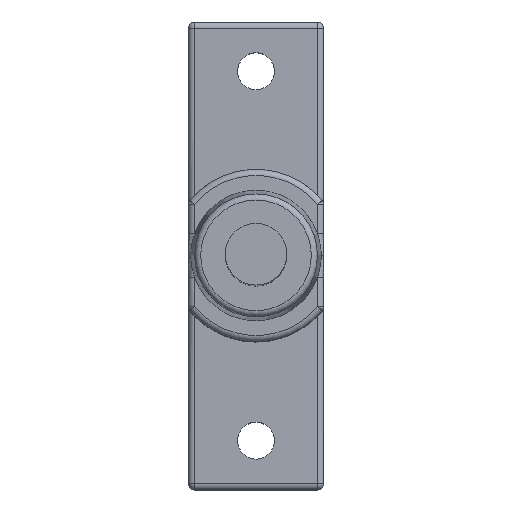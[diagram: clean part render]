
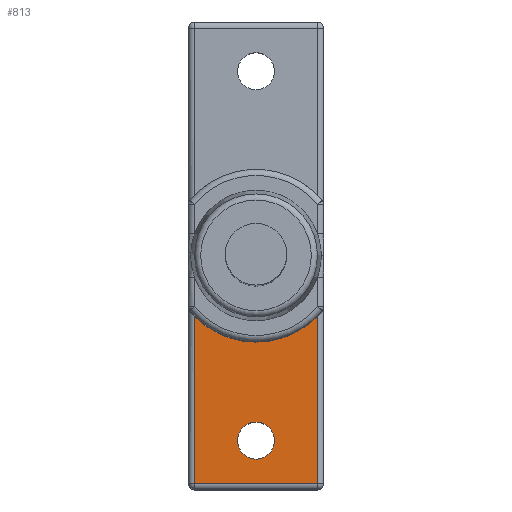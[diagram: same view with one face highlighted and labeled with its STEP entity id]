
A CAD part, top view. The second image highlights one B-rep face of the part: STEP entity #813.
In plain terms, the highlighted planar face has unit normal (0, 0, 1).
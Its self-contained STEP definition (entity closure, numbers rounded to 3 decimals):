
#255 = VERTEX_POINT('',#256);
#256 = CARTESIAN_POINT('',(5.,-4.899,5.7));
#283 = VERTEX_POINT('',#284);
#284 = CARTESIAN_POINT('',(5.,-18.5,5.7));
#291 = EDGE_CURVE('',#283,#255,#292,.T.);
#292 = LINE('',#293,#294);
#293 = CARTESIAN_POINT('',(5.,-19.,5.7));
#294 = VECTOR('',#295,1.);
#295 = DIRECTION('',(0.,1.,0.));
#723 = EDGE_CURVE('',#724,#255,#726,.T.);
#724 = VERTEX_POINT('',#725);
#725 = CARTESIAN_POINT('',(-5.,-4.899,5.7));
#726 = CIRCLE('',#727,7.);
#727 = AXIS2_PLACEMENT_3D('',#728,#729,#730);
#728 = CARTESIAN_POINT('',(0.,0.,5.7));
#729 = DIRECTION('',(0.,0.,1.));
#730 = DIRECTION('',(1.,0.,0.));
#813 = ADVANCED_FACE('',(#814,#832),#843,.T.);
#814 = FACE_BOUND('',#815,.T.);
#815 = EDGE_LOOP('',(#816,#817,#825,#831));
#816 = ORIENTED_EDGE('',*,*,#723,.F.);
#817 = ORIENTED_EDGE('',*,*,#818,.T.);
#818 = EDGE_CURVE('',#724,#819,#821,.T.);
#819 = VERTEX_POINT('',#820);
#820 = CARTESIAN_POINT('',(-5.,-18.5,5.7));
#821 = LINE('',#822,#823);
#822 = CARTESIAN_POINT('',(-5.,-4.33,5.7));
#823 = VECTOR('',#824,1.);
#824 = DIRECTION('',(0.,-1.,0.));
#825 = ORIENTED_EDGE('',*,*,#826,.T.);
#826 = EDGE_CURVE('',#819,#283,#827,.T.);
#827 = LINE('',#828,#829);
#828 = CARTESIAN_POINT('',(-5.5,-18.5,5.7));
#829 = VECTOR('',#830,1.);
#830 = DIRECTION('',(1.,0.,0.));
#831 = ORIENTED_EDGE('',*,*,#291,.T.);
#832 = FACE_BOUND('',#833,.T.);
#833 = EDGE_LOOP('',(#834));
#834 = ORIENTED_EDGE('',*,*,#835,.T.);
#835 = EDGE_CURVE('',#836,#836,#838,.T.);
#836 = VERTEX_POINT('',#837);
#837 = CARTESIAN_POINT('',(1.5,-15.,5.7));
#838 = CIRCLE('',#839,1.5);
#839 = AXIS2_PLACEMENT_3D('',#840,#841,#842);
#840 = CARTESIAN_POINT('',(0.,-15.,5.7));
#841 = DIRECTION('',(0.,0.,-1.));
#842 = DIRECTION('',(1.,0.,0.));
#843 = PLANE('',#844);
#844 = AXIS2_PLACEMENT_3D('',#845,#846,#847);
#845 = CARTESIAN_POINT('',(0.,0.,5.7));
#846 = DIRECTION('',(0.,0.,1.));
#847 = DIRECTION('',(1.,0.,0.));
